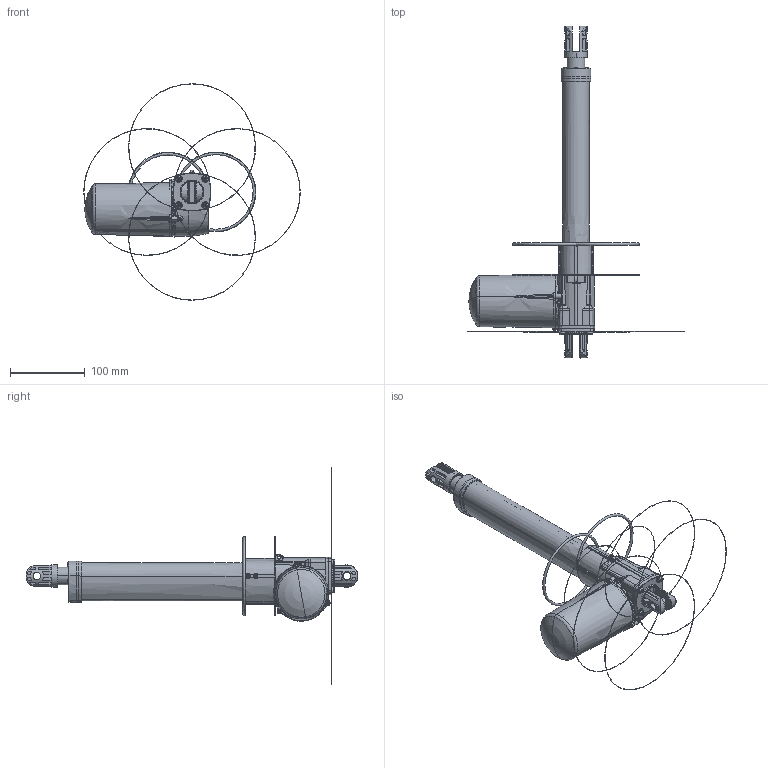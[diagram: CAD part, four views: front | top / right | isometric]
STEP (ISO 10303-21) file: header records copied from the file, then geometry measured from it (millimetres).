
FILE_DESCRIPTION((''),'2;1');
FILE_NAME('ASM0004_ASM','2014-06-05T',('tony'),(''),'PRO/ENGINEER BY PARAMETRIC TECHNOLOGY CORPORATION, 2008090','PRO/ENGINEER BY PARAMETRIC TECHNOLOGY CORPORATION, 2008090','');
FILE_SCHEMA(('CONFIG_CONTROL_DESIGN'));
Products named in the file (8): PRT0030; PRT0031; PRT0032; ASM0003_ASM_ASM; ASM0002_ASM_ASM; ASM0001_ASM_ASM; 2_ASM; ASM0004_ASM
Assembly tree (7 placements, depth 6):
  ASM0004_ASM
    PRT0030
    2_ASM
      ASM0001_ASM_ASM
        ASM0002_ASM_ASM
          ASM0003_ASM_ASM
            PRT0031
            PRT0032
Bounding box: 289.88 x 444.57 x 289.88 mm (x, y, z)
Surface area: 359070.8 mm2 (no closed solid volume)
Topology: 0 solids, 0 shells, 1830 faces, 10537 edges, 10451 vertices
Faces by surface type: bspline 1683, torus 139, sphere 8
Entity records: 185013 total; most frequent: CARTESIAN_POINT 96310, DIRECTION 13505, TRIMMED_CURVE 11266, DEFINITIONAL_REPRESENTATION 10384, PCURVE 10384, COMPOSITE_CURVE_SEGMENT 10384, VECTOR 9361, LINE 9361
